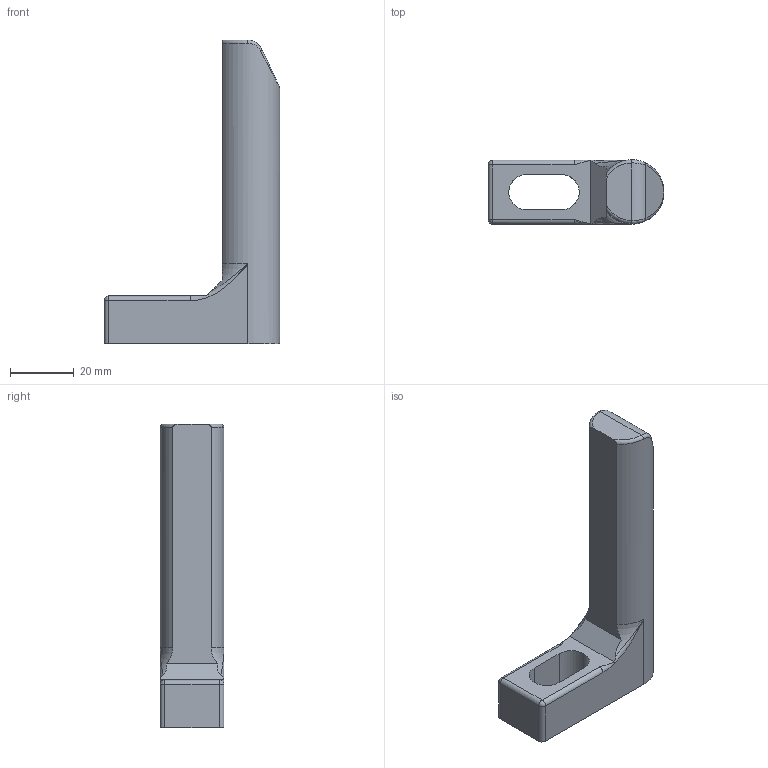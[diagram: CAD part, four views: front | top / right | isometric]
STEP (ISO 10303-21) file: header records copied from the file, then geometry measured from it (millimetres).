
FILE_DESCRIPTION(('CATIA V5 STEP Exchange'),'2;1');
FILE_NAME('C:\Users\Utente\Desktop\IO LAVORO\3D X SITO CF\X SITO\704\704-4.stp','2020-11-29T12:22:25+00:00',('none'),('none'),'CATIA Version 5 Release 20 GA (IN-10)','CATIA V5 STEP AP203','none');
FILE_SCHEMA(('CONFIG_CONTROL_DESIGN'));
Length unit declared in the file: millimetre
Products named in the file (1): 704-4
Bounding box: 55 x 20 x 95 mm (x, y, z)
Volume: 36099.4 mm3; surface area: 9365.3 mm2
Topology: 1 solids, 1 shells, 35 faces, 91 edges, 54 vertices
Faces by surface type: cylinder 12, plane 11, bspline 6, torus 4, sphere 2
Entity records: 1418 total; most frequent: CARTESIAN_POINT 648, ORIENTED_EDGE 174, DIRECTION 111, EDGE_CURVE 87, VERTEX_POINT 54, AXIS2_PLACEMENT_3D 50, EDGE_LOOP 37, ADVANCED_FACE 35
